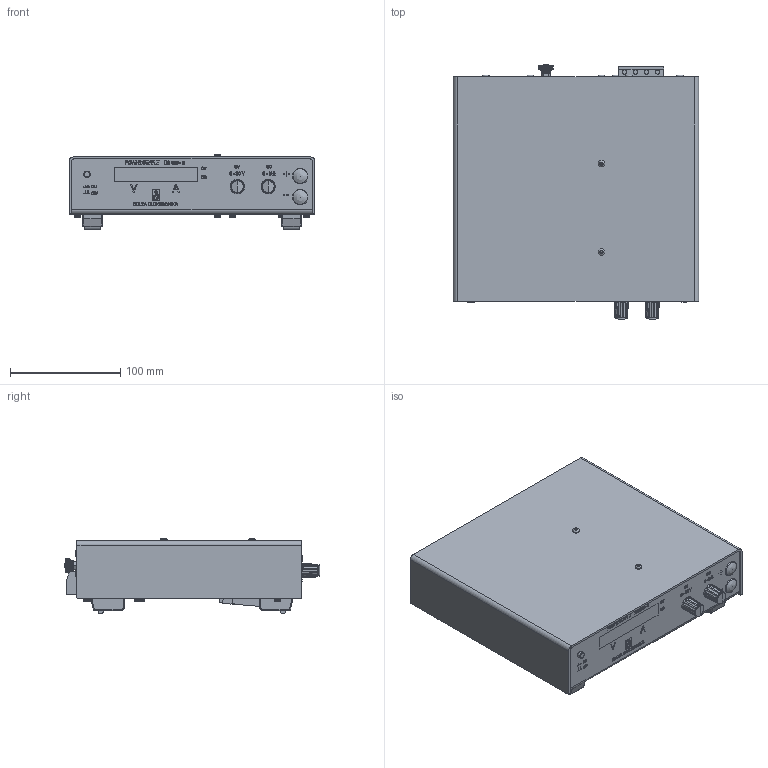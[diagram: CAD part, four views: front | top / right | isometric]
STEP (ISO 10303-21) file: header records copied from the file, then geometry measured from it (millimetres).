
FILE_DESCRIPTION(/* description */ (''),/* implementation_level */ '2;1');
FILE_NAME(/* name */ 'A:\Data\ES150\option\P150\step file\ES150-P120,P150.stp',/* time_stamp */ '2021-02-15T15:51:40+01:00',/* author */ ('Delta'),/* organization */ (''),/* preprocessor_version */ 'ST-DEVELOPER v17.2',/* originating_system */ 'Autodesk Inventor 2019',/* authorisation */ '');
FILE_SCHEMA (('AUTOMOTIVE_DESIGN { 1 0 10303 214 3 1 1 }'));
Products named in the file (1): assembly ES150-P120,P150_Shrinkwrap_1
Bounding box: 222 x 231.2 x 68.2 mm (x, y, z)
Volume: 2323710.5 mm3; surface area: 164925.9 mm2
Topology: 1 solids, 1 shells, 3404 faces, 8103 edges, 5200 vertices
Faces by surface type: plane 1900, cylinder 685, bspline 424, cone 237, torus 90, sphere 68
Full cylindrical faces by diameter (mm): 3.5 x351, 3.9 x4, 4 x2, 4.5 x2, 4.75 x4, 5 x1, 5.8 x1, 6 x31, 6.2 x2, 6.9 x8, 7.1 x4, 7.8 x2, 8 x4, 8.3 x2, 8.8 x2, 9 x2, 9.8 x4, 10 x2, 10.5 x1, 10.7 x2
Entity records: 107796 total; most frequent: CARTESIAN_POINT 28389, ORIENTED_EDGE 16156, DIRECTION 14983, EDGE_CURVE 8078, AXIS2_PLACEMENT_3D 5355, VERTEX_POINT 5202, LINE 4273, VECTOR 4273
